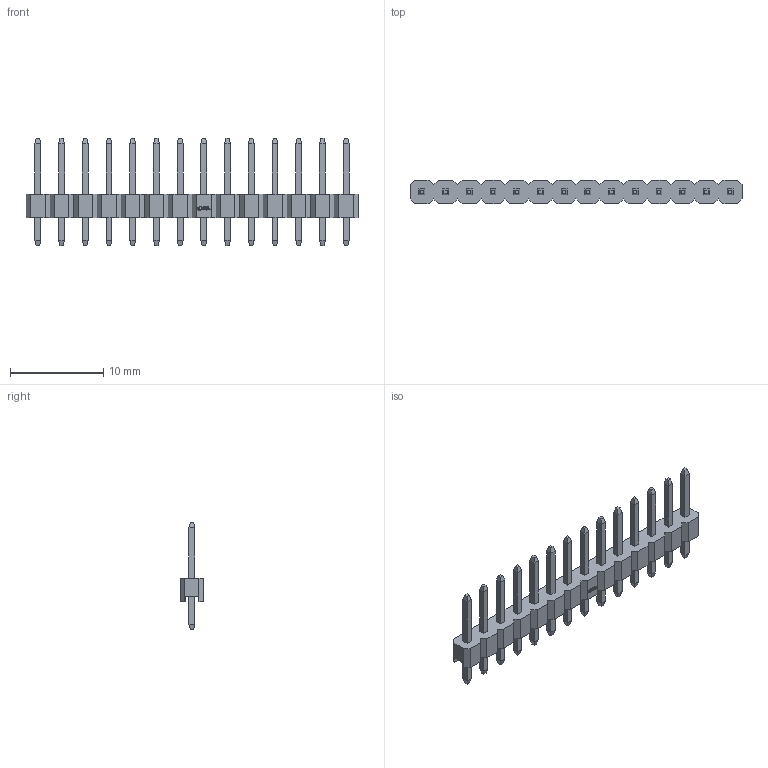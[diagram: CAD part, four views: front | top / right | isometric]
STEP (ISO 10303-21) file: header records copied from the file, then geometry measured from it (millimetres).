
FILE_DESCRIPTION (( 'STEP AP214' ), '1' );
FILE_NAME ('HDR-TH_14P-P2.54-V-M_4.STEP', '2026-03-13T23:56:22', ( 'User' ), ( 'China' ), 'SwSTEP 2.0', 'SolidWorks 2020', '' );
FILE_SCHEMA (( 'AUTOMOTIVE_DESIGN' ));
Length unit declared in the file: millimetre
Products named in the file (1): HDR-TH_14P-P2.54-V-M_4
Bounding box: 35.56 x 2.51 x 11.5 mm (x, y, z)
Volume: 229.5 mm3; surface area: 746.8 mm2
Topology: 1 solids, 1 shells, 568 faces, 1445 edges, 926 vertices
Faces by surface type: plane 470, bspline 98
Entity records: 23511 total; most frequent: CARTESIAN_POINT 4250, ORIENTED_EDGE 2890, DIRECTION 2187, EDGE_CURVE 1445, LINE 1245, VECTOR 1245, VERTEX_POINT 926, EDGE_LOOP 615
